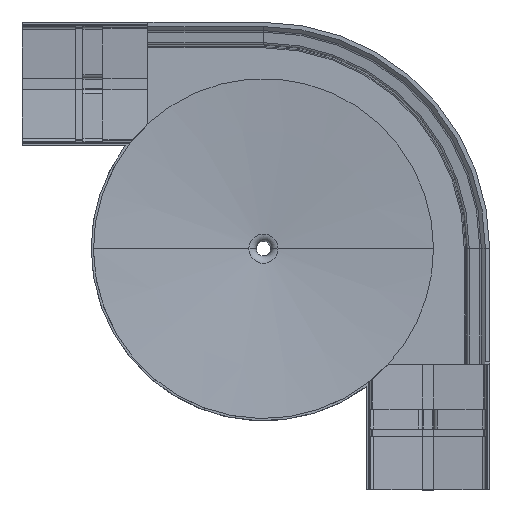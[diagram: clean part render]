
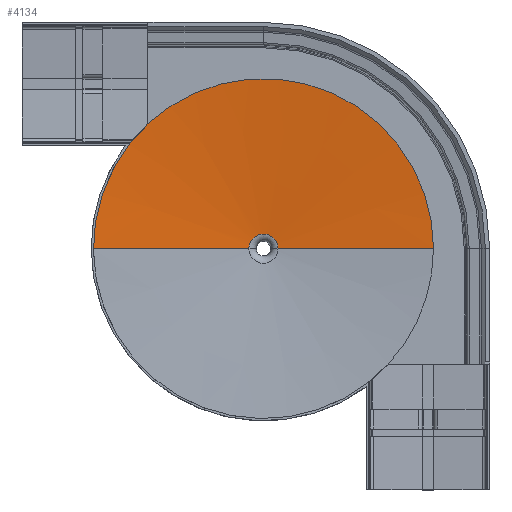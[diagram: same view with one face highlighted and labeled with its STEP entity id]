
A CAD part, top view. The second image highlights one B-rep face of the part: STEP entity #4134.
In plain terms, the highlighted conical face has half-angle 84.75 degrees and reference radius 155 mm.
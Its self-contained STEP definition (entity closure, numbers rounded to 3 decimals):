
#147 = EDGE_CURVE ( 'NONE', #4974, #638, #3461, .T. ) ;
#340 = EDGE_CURVE ( 'NONE', #3214, #3634, #6400, .T. ) ;
#638 = VERTEX_POINT ( 'NONE', #1897 ) ;
#705 = CARTESIAN_POINT ( 'NONE',  ( -150., -150., -90.909 ) ) ;
#799 = VERTEX_POINT ( 'NONE', #4936 ) ;
#1030 = CONICAL_SURFACE ( 'NONE', #6140, 155., 1.479 ) ;
#1334 = DIRECTION ( 'NONE',  ( 0., 0., 1. ) ) ;
#1341 = DIRECTION ( 'NONE',  ( 1., 0., 0. ) ) ;
#1640 = AXIS2_PLACEMENT_3D ( 'NONE', #705, #1700, #4857 ) ;
#1684 = ORIENTED_EDGE ( 'NONE', *, *, #4853, .T. ) ;
#1700 = DIRECTION ( 'NONE',  ( 0., 0., 1. ) ) ;
#1716 = DIRECTION ( 'NONE',  ( 0., 0., 1. ) ) ;
#1865 = AXIS2_PLACEMENT_3D ( 'NONE', #4411, #1334, #4924 ) ;
#1897 = CARTESIAN_POINT ( 'NONE',  ( -255.4, -36.352, -90.909 ) ) ;
#1979 = VECTOR ( 'NONE', #3687, 1000. ) ;
#1980 = CARTESIAN_POINT ( 'NONE',  ( 5., -150., -90.909 ) ) ;
#2056 = EDGE_CURVE ( 'NONE', #3214, #4974, #6543, .T. ) ;
#2190 = CARTESIAN_POINT ( 'NONE',  ( 5., -150., -90.909 ) ) ;
#2204 = ORIENTED_EDGE ( 'NONE', *, *, #2056, .T. ) ;
#2228 = DIRECTION ( 'NONE',  ( 0., 0., 1. ) ) ;
#2324 = EDGE_LOOP ( 'NONE', ( #4538, #4200, #2204, #3535, #1684 ) ) ;
#2529 = DIRECTION ( 'NONE',  ( 0.996, 0., 0.092 ) ) ;
#2708 = CARTESIAN_POINT ( 'NONE',  ( -150., -150., -90.909 ) ) ;
#3198 = AXIS2_PLACEMENT_3D ( 'NONE', #6210, #1716, #5310 ) ;
#3214 = VERTEX_POINT ( 'NONE', #5206 ) ;
#3224 = CARTESIAN_POINT ( 'NONE',  ( -163.311, -150., -103.928 ) ) ;
#3461 = CIRCLE ( 'NONE', #1865, 155. ) ;
#3535 = ORIENTED_EDGE ( 'NONE', *, *, #147, .T. ) ;
#3634 = VERTEX_POINT ( 'NONE', #3224 ) ;
#3643 = EDGE_CURVE ( 'NONE', #3634, #799, #4625, .T. ) ;
#3687 = DIRECTION ( 'NONE',  ( -0.996, 0., 0.092 ) ) ;
#3736 = FACE_OUTER_BOUND ( 'NONE', #2324, .T. ) ;
#4064 = CIRCLE ( 'NONE', #1640, 155. ) ;
#4134 = ADVANCED_FACE ( 'CONE_6', ( #3736 ), #1030, .F. ) ;
#4200 = ORIENTED_EDGE ( 'NONE', *, *, #340, .F. ) ;
#4411 = CARTESIAN_POINT ( 'NONE',  ( -150., -150., -90.909 ) ) ;
#4538 = ORIENTED_EDGE ( 'NONE', *, *, #3643, .F. ) ;
#4625 = LINE ( 'NONE', #6425, #1979 ) ;
#4853 = EDGE_CURVE ( 'NONE', #638, #799, #4064, .T. ) ;
#4857 = DIRECTION ( 'NONE',  ( 1., 0., 0. ) ) ;
#4924 = DIRECTION ( 'NONE',  ( 1., 0., 0. ) ) ;
#4936 = CARTESIAN_POINT ( 'NONE',  ( -305., -150., -90.909 ) ) ;
#4974 = VERTEX_POINT ( 'NONE', #2190 ) ;
#5206 = CARTESIAN_POINT ( 'NONE',  ( -136.689, -150., -103.928 ) ) ;
#5310 = DIRECTION ( 'NONE',  ( 1., 0., 0. ) ) ;
#5349 = VECTOR ( 'NONE', #2529, 1000. ) ;
#6140 = AXIS2_PLACEMENT_3D ( 'NONE', #2708, #2228, #1341 ) ;
#6210 = CARTESIAN_POINT ( 'NONE',  ( -150., -150., -103.928 ) ) ;
#6400 = CIRCLE ( 'NONE', #3198, 13.311 ) ;
#6425 = CARTESIAN_POINT ( 'NONE',  ( -305., -150., -90.909 ) ) ;
#6543 = LINE ( 'NONE', #1980, #5349 ) ;
